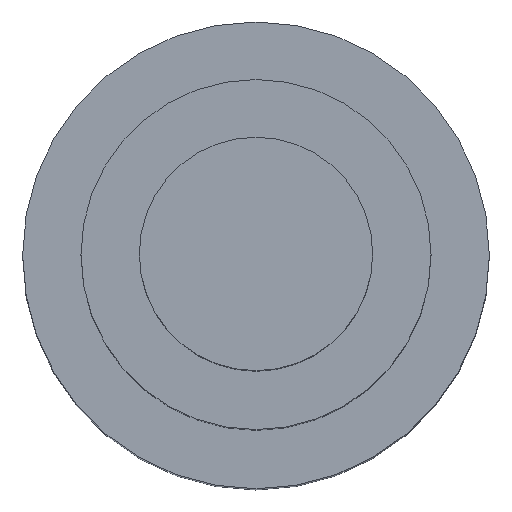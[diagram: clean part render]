
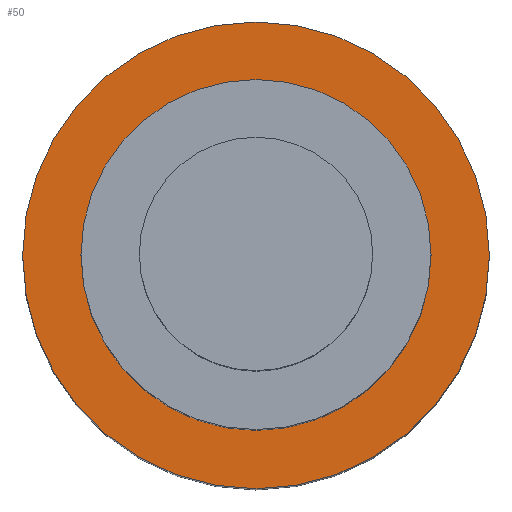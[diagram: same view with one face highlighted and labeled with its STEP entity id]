
A CAD part, top view. The second image highlights one B-rep face of the part: STEP entity #50.
In plain terms, the highlighted planar face has unit normal (0, 0, 1).
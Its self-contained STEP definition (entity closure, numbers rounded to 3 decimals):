
#21 = EDGE_CURVE('',#22,#22,#24,.T.);
#22 = VERTEX_POINT('',#23);
#23 = CARTESIAN_POINT('',(20.,0.,60.));
#24 = CIRCLE('',#25,20.);
#25 = AXIS2_PLACEMENT_3D('',#26,#27,#28);
#26 = CARTESIAN_POINT('',(0.,0.,60.));
#27 = DIRECTION('',(0.,0.,1.));
#28 = DIRECTION('',(1.,0.,0.));
#50 = ADVANCED_FACE('',(#51,#54),#65,.T.);
#51 = FACE_BOUND('',#52,.T.);
#52 = EDGE_LOOP('',(#53));
#53 = ORIENTED_EDGE('',*,*,#21,.T.);
#54 = FACE_BOUND('',#55,.T.);
#55 = EDGE_LOOP('',(#56));
#56 = ORIENTED_EDGE('',*,*,#57,.F.);
#57 = EDGE_CURVE('',#58,#58,#60,.T.);
#58 = VERTEX_POINT('',#59);
#59 = CARTESIAN_POINT('',(15.,0.,60.));
#60 = CIRCLE('',#61,15.);
#61 = AXIS2_PLACEMENT_3D('',#62,#63,#64);
#62 = CARTESIAN_POINT('',(0.,0.,60.));
#63 = DIRECTION('',(0.,0.,1.));
#64 = DIRECTION('',(1.,0.,0.));
#65 = PLANE('',#66);
#66 = AXIS2_PLACEMENT_3D('',#67,#68,#69);
#67 = CARTESIAN_POINT('',(0.,0.,60.));
#68 = DIRECTION('',(0.,0.,1.));
#69 = DIRECTION('',(1.,0.,0.));
